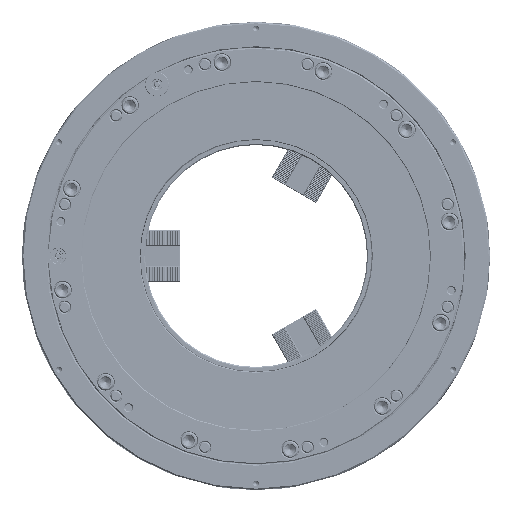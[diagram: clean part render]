
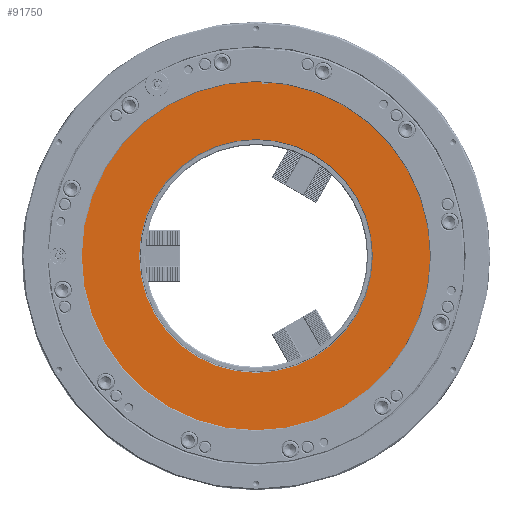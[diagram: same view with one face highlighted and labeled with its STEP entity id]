
A CAD part, left-side view. The second image highlights one B-rep face of the part: STEP entity #91750.
In plain terms, the highlighted planar face has unit normal (-1, 0, 0).
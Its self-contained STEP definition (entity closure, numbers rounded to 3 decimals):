
#4231 = DIRECTION ( 'NONE',  ( 0., 0., -1. ) ) ;
#6263 = LINE ( 'NONE', #204386, #210517 ) ;
#12555 = FACE_BOUND ( 'NONE', #246322, .T. ) ;
#14217 = CARTESIAN_POINT ( 'NONE',  ( -275., 171., 0. ) ) ;
#20239 = LINE ( 'NONE', #325633, #132491 ) ;
#21949 = VERTEX_POINT ( 'NONE', #221597 ) ;
#39759 = PLANE ( 'NONE',  #125254 ) ;
#41495 = DIRECTION ( 'NONE',  ( 0., 0., -1. ) ) ;
#45843 = EDGE_CURVE ( 'NONE', #229117, #248457, #147633, .T. ) ;
#48521 = CIRCLE ( 'NONE', #238867, 255. ) ;
#63498 = AXIS2_PLACEMENT_3D ( 'NONE', #124731, #146984, #228661 ) ;
#67047 = DIRECTION ( 'NONE',  ( 1., 0., 0. ) ) ;
#67195 = CARTESIAN_POINT ( 'NONE',  ( -275., 0., -255. ) ) ;
#77231 = CARTESIAN_POINT ( 'NONE',  ( -275., 0., -171. ) ) ;
#77790 = VERTEX_POINT ( 'NONE', #77231 ) ;
#85286 = CARTESIAN_POINT ( 'NONE',  ( -275., -8.222, 252.416 ) ) ;
#88564 = VERTEX_POINT ( 'NONE', #155518 ) ;
#90833 = DIRECTION ( 'NONE',  ( -1., 0., 0. ) ) ;
#91750 = ADVANCED_FACE ( 'NONE', ( #245887, #12555 ), #39759, .T. ) ;
#96525 = EDGE_LOOP ( 'NONE', ( #291716, #315398, #306706, #177856, #304003, #184439 ) ) ;
#108910 = CARTESIAN_POINT ( 'NONE',  ( -275., 0., 171. ) ) ;
#124731 = CARTESIAN_POINT ( 'NONE',  ( -275., 0., 0. ) ) ;
#125254 = AXIS2_PLACEMENT_3D ( 'NONE', #14217, #90833, #162471 ) ;
#127092 = CARTESIAN_POINT ( 'NONE',  ( -275., 0., 255. ) ) ;
#128090 = EDGE_CURVE ( 'NONE', #336848, #88564, #20239, .T. ) ;
#131316 = AXIS2_PLACEMENT_3D ( 'NONE', #313424, #286265, #160194 ) ;
#132491 = VECTOR ( 'NONE', #280786, 1000. ) ;
#134508 = EDGE_CURVE ( 'NONE', #88564, #229117, #6263, .T. ) ;
#134966 = EDGE_CURVE ( 'NONE', #77790, #136762, #243373, .T. ) ;
#136762 = VERTEX_POINT ( 'NONE', #108910 ) ;
#146984 = DIRECTION ( 'NONE',  ( 1., 0., 0. ) ) ;
#147633 = CIRCLE ( 'NONE', #131316, 255. ) ;
#153283 = DIRECTION ( 'NONE',  ( 0., -0.052, 0.999 ) ) ;
#155518 = CARTESIAN_POINT ( 'NONE',  ( -275., -18.208, 251.892 ) ) ;
#155685 = EDGE_CURVE ( 'NONE', #136762, #77790, #330309, .T. ) ;
#160194 = DIRECTION ( 'NONE',  ( 0., 0., -1. ) ) ;
#162471 = DIRECTION ( 'NONE',  ( 0., 0., 1. ) ) ;
#169966 = VECTOR ( 'NONE', #200011, 1000. ) ;
#177856 = ORIENTED_EDGE ( 'NONE', *, *, #304662, .F. ) ;
#181974 = CARTESIAN_POINT ( 'NONE',  ( -275., 0., 0. ) ) ;
#184439 = ORIENTED_EDGE ( 'NONE', *, *, #45843, .F. ) ;
#184718 = CARTESIAN_POINT ( 'NONE',  ( -275., 0., 0. ) ) ;
#200011 = DIRECTION ( 'NONE',  ( 0., 0.052, -0.999 ) ) ;
#204386 = CARTESIAN_POINT ( 'NONE',  ( -275., -4.525, -9.199 ) ) ;
#207010 = EDGE_CURVE ( 'NONE', #21949, #336848, #249489, .T. ) ;
#210517 = VECTOR ( 'NONE', #153283, 1000. ) ;
#221264 = EDGE_CURVE ( 'NONE', #248457, #221722, #48521, .T. ) ;
#221464 = CARTESIAN_POINT ( 'NONE',  ( -275., -18.336, 254.34 ) ) ;
#221597 = CARTESIAN_POINT ( 'NONE',  ( -275., -8.35, 254.863 ) ) ;
#221722 = VERTEX_POINT ( 'NONE', #127092 ) ;
#228661 = DIRECTION ( 'NONE',  ( 0., 0., -1. ) ) ;
#229117 = VERTEX_POINT ( 'NONE', #221464 ) ;
#232409 = AXIS2_PLACEMENT_3D ( 'NONE', #184718, #237524, #4231 ) ;
#237524 = DIRECTION ( 'NONE',  ( 1., 0., 0. ) ) ;
#238867 = AXIS2_PLACEMENT_3D ( 'NONE', #181974, #285855, #289188 ) ;
#243373 = CIRCLE ( 'NONE', #232409, 171. ) ;
#245887 = FACE_OUTER_BOUND ( 'NONE', #96525, .T. ) ;
#246322 = EDGE_LOOP ( 'NONE', ( #254703, #312499 ) ) ;
#248457 = VERTEX_POINT ( 'NONE', #67195 ) ;
#249489 = LINE ( 'NONE', #271642, #169966 ) ;
#254703 = ORIENTED_EDGE ( 'NONE', *, *, #155685, .T. ) ;
#271642 = CARTESIAN_POINT ( 'NONE',  ( -275., 5.462, -8.676 ) ) ;
#280786 = DIRECTION ( 'NONE',  ( 0., -0.999, -0.052 ) ) ;
#285855 = DIRECTION ( 'NONE',  ( 1., 0., 0. ) ) ;
#286265 = DIRECTION ( 'NONE',  ( 1., 0., 0. ) ) ;
#286421 = CIRCLE ( 'NONE', #63498, 255. ) ;
#289188 = DIRECTION ( 'NONE',  ( 0., 0., -1. ) ) ;
#291716 = ORIENTED_EDGE ( 'NONE', *, *, #134508, .F. ) ;
#300369 = CARTESIAN_POINT ( 'NONE',  ( -275., 0., 0. ) ) ;
#304003 = ORIENTED_EDGE ( 'NONE', *, *, #221264, .F. ) ;
#304662 = EDGE_CURVE ( 'NONE', #221722, #21949, #286421, .T. ) ;
#306706 = ORIENTED_EDGE ( 'NONE', *, *, #207010, .F. ) ;
#312499 = ORIENTED_EDGE ( 'NONE', *, *, #134966, .T. ) ;
#313424 = CARTESIAN_POINT ( 'NONE',  ( -275., 0., 0. ) ) ;
#314001 = AXIS2_PLACEMENT_3D ( 'NONE', #300369, #67047, #41495 ) ;
#315398 = ORIENTED_EDGE ( 'NONE', *, *, #128090, .F. ) ;
#325633 = CARTESIAN_POINT ( 'NONE',  ( -275., 157.317, 261.091 ) ) ;
#330309 = CIRCLE ( 'NONE', #314001, 171. ) ;
#336848 = VERTEX_POINT ( 'NONE', #85286 ) ;
